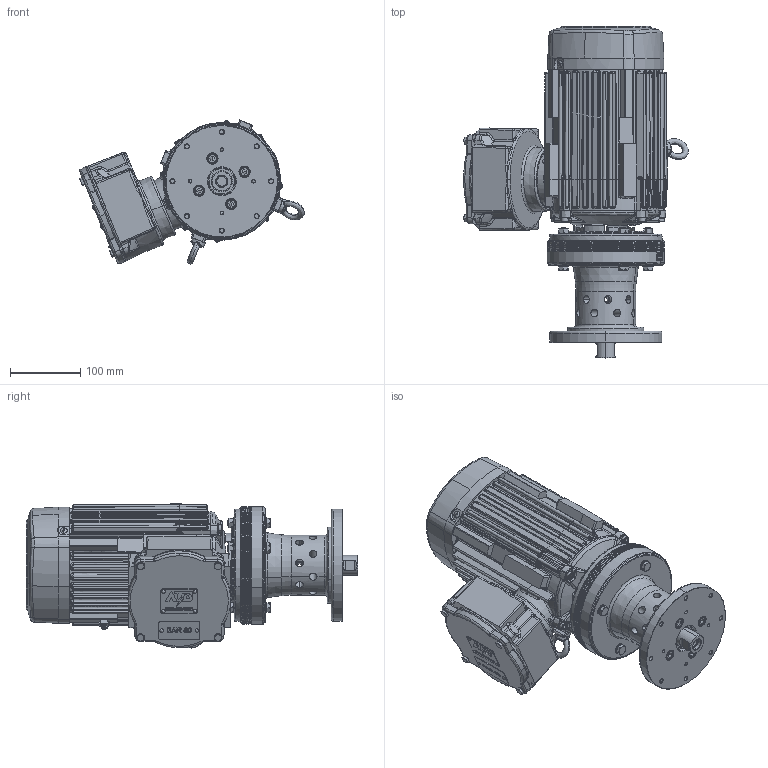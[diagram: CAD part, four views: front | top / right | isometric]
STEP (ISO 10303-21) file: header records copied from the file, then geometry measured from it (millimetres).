
FILE_DESCRIPTION (( 'STEP AP214' ), '1' );
FILE_NAME ('Elektr. Rührwerksantrieb ATEX 5Nm 0,75kW mit Gewindenabe M16_6621+5615.STEP', '2024-04-03T14:44:19', ( '' ), ( '' ), 'SwSTEP 2.0', 'SolidWorks 2022', '' );
FILE_SCHEMA (( 'AUTOMOTIVE_DESIGN' ));
Length unit declared in the file: millimetre
Products named in the file (1): Elektr. Rührwerksantrieb ATEX 5Nm 0,75kW mit Gewindenabe M16_6621+5615
Bounding box: 318.87 x 471.11 x 204.45 mm (x, y, z)
Surface area: 483771.7 mm2 (no closed solid volume)
Topology: 0 solids, 82 shells, 2149 faces, 7020 edges, 4752 vertices
Faces by surface type: bspline 791, plane 527, cylinder 398, cone 307, torus 126
Entity records: 159769 total; most frequent: CARTESIAN_POINT 85163, ORIENTED_EDGE 11326, DIRECTION 7790, EDGE_CURVE 6987, VERTEX_POINT 4752, B_SPLINE_CURVE_WITH_KNOTS 3344, AXIS2_PLACEMENT_3D 2945, EDGE_LOOP 2371
